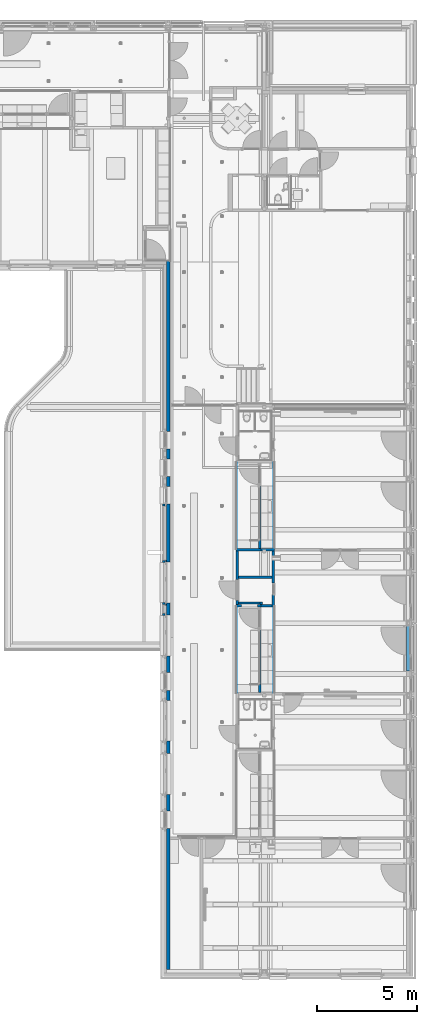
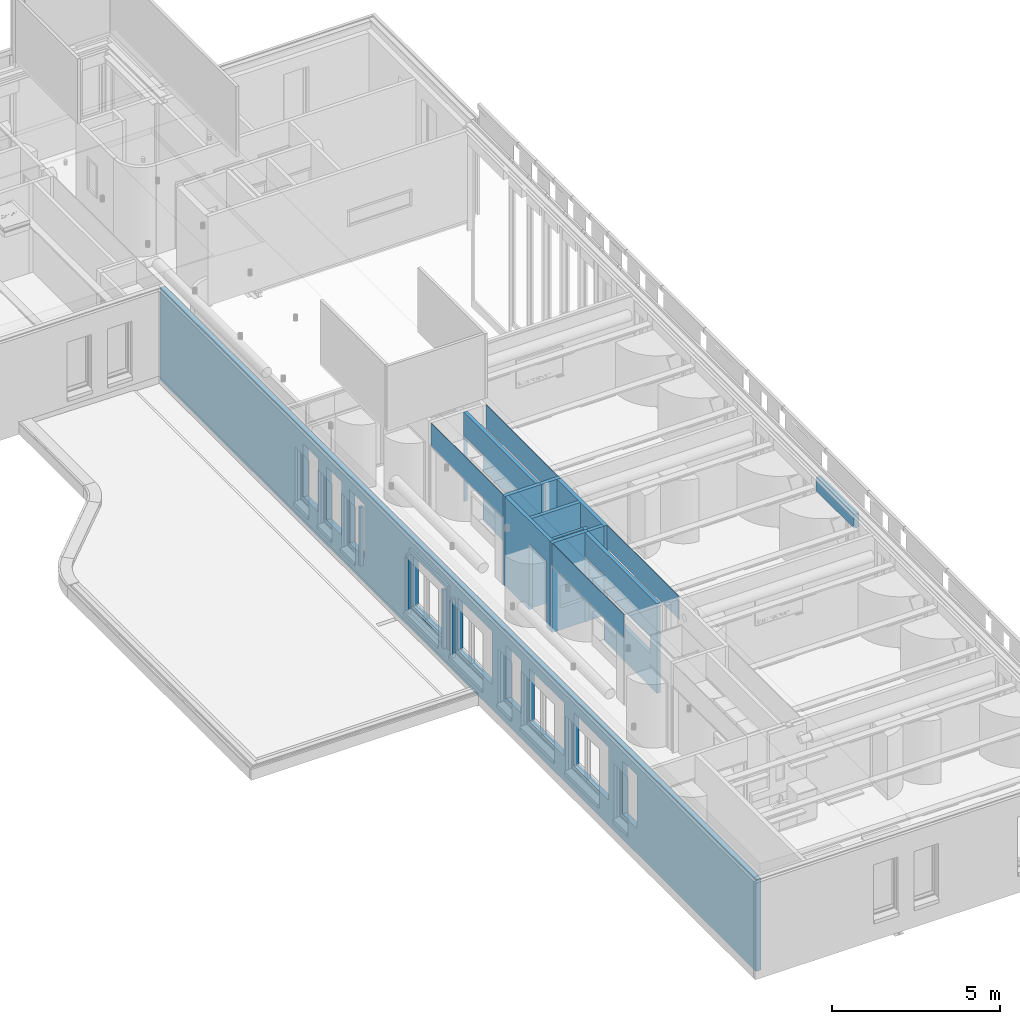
# One storey, part 37 of 128: 22 walls, 17 openings.
"""IFC2X3 building model written with IfcOpenShell, lengths in millimetres."""

from ifc_helpers import new_model, entity, si_unit, converted_unit, derived_unit, direction, frame, frame_2d, origin, origin_2d_with_axis, place, context, subcontext, project, spatial, rectangle, extrude, material, layer, layer_set, layer_usage, type_object, element, save


model = new_model("IFC2X3")

# Units and contexts
model_context = context("Model", 3, precision=0.01, world=origin(), true_north=direction((6.123031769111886e-17, 1.0)))
body_context = subcontext(model_context, "Body", "Model", "MODEL_VIEW")
ifc_project = project(units=[si_unit("LENGTHUNIT", "METRE", prefix="MILLI"), si_unit("AREAUNIT", "SQUARE_METRE"), si_unit("VOLUMEUNIT", "CUBIC_METRE"), converted_unit("PLANEANGLEUNIT", "DEGREE", entity("IfcRatioMeasure", 0.017453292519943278), si_unit("PLANEANGLEUNIT", "RADIAN"), dimensions=[0, 0, 0, 0, 0, 0, 0]), si_unit("MASSUNIT", "GRAM", prefix="KILO"), derived_unit("MASSDENSITYUNIT", [(si_unit("MASSUNIT", "GRAM", prefix="KILO"), 1), (si_unit("LENGTHUNIT", "METRE"), -3)]), derived_unit("IONCONCENTRATIONUNIT", [(si_unit("MASSUNIT", "GRAM", prefix="KILO"), 1), (si_unit("LENGTHUNIT", "METRE"), -3)]), derived_unit("MOMENTOFINERTIAUNIT", [(si_unit("LENGTHUNIT", "METRE"), 4)]), si_unit("TIMEUNIT", "SECOND"), si_unit("FREQUENCYUNIT", "HERTZ"), si_unit("THERMODYNAMICTEMPERATUREUNIT", "DEGREE_CELSIUS"), derived_unit("THERMALTRANSMITTANCEUNIT", [(si_unit("MASSUNIT", "GRAM", prefix="KILO"), 1), (si_unit("THERMODYNAMICTEMPERATUREUNIT", "KELVIN"), -1), (si_unit("TIMEUNIT", "SECOND"), -3)]), derived_unit("THERMALCONDUCTANCEUNIT", [(si_unit("MASSUNIT", "GRAM", prefix="KILO"), 1), (si_unit("THERMODYNAMICTEMPERATUREUNIT", "KELVIN"), -1), (si_unit("TIMEUNIT", "SECOND"), -3), (si_unit("LENGTHUNIT", "METRE"), 1)]), derived_unit("VOLUMETRICFLOWRATEUNIT", [(si_unit("LENGTHUNIT", "METRE"), 3), (si_unit("TIMEUNIT", "SECOND"), -1)]), derived_unit("MASSFLOWRATEUNIT", [(si_unit("MASSUNIT", "GRAM", prefix="KILO"), 1), (si_unit("TIMEUNIT", "SECOND"), -1)]), derived_unit("ROTATIONALFREQUENCYUNIT", [(si_unit("TIMEUNIT", "SECOND"), -1)]), si_unit("ELECTRICCURRENTUNIT", "AMPERE"), si_unit("ELECTRICVOLTAGEUNIT", "VOLT"), si_unit("POWERUNIT", "WATT"), si_unit("FORCEUNIT", "NEWTON", prefix="KILO"), si_unit("ILLUMINANCEUNIT", "LUX"), si_unit("LUMINOUSFLUXUNIT", "LUMEN"), si_unit("LUMINOUSINTENSITYUNIT", "CANDELA"), derived_unit("USERDEFINED", [(si_unit("MASSUNIT", "GRAM", prefix="KILO"), -1), (si_unit("LENGTHUNIT", "METRE"), -2), (si_unit("TIMEUNIT", "SECOND"), 3), (si_unit("LUMINOUSFLUXUNIT", "LUMEN"), 1)]), derived_unit("USERDEFINED", [(si_unit("MASSUNIT", "GRAM", prefix="KILO"), 1), (si_unit("TIMEUNIT", "SECOND"), -3), (si_unit("LENGTHUNIT", "METRE"), 3), (si_unit("ELECTRICCURRENTUNIT", "AMPERE"), -2)]), derived_unit("SOUNDPOWERUNIT", [(si_unit("MASSUNIT", "GRAM", prefix="KILO"), 1), (si_unit("TIMEUNIT", "SECOND"), -3), (si_unit("LENGTHUNIT", "METRE"), 2)]), derived_unit("SOUNDPRESSUREUNIT", [(si_unit("MASSUNIT", "GRAM", prefix="KILO"), 1), (si_unit("LENGTHUNIT", "METRE"), -1), (si_unit("TIMEUNIT", "SECOND"), -2)]), derived_unit("LINEARVELOCITYUNIT", [(si_unit("LENGTHUNIT", "METRE"), 1), (si_unit("TIMEUNIT", "SECOND"), -1)]), si_unit("PRESSUREUNIT", "PASCAL"), derived_unit("USERDEFINED", [(si_unit("MASSUNIT", "GRAM", prefix="KILO"), 1), (si_unit("LENGTHUNIT", "METRE"), -2), (si_unit("TIMEUNIT", "SECOND"), -2)]), derived_unit("LINEARFORCEUNIT", [(si_unit("MASSUNIT", "GRAM", prefix="KILO"), 1), (si_unit("TIMEUNIT", "SECOND"), -2)]), derived_unit("PLANARFORCEUNIT", [(si_unit("MASSUNIT", "GRAM", prefix="KILO"), 1), (si_unit("LENGTHUNIT", "METRE"), -1), (si_unit("TIMEUNIT", "SECOND"), -2)]), derived_unit("SPECIFICHEATCAPACITYUNIT", [(si_unit("THERMODYNAMICTEMPERATUREUNIT", "KELVIN"), -1), (si_unit("LENGTHUNIT", "METRE"), 2), (si_unit("TIMEUNIT", "SECOND"), -2)]), derived_unit("HEATINGVALUEUNIT", [(si_unit("LENGTHUNIT", "METRE"), 2), (si_unit("TIMEUNIT", "SECOND"), -2)]), derived_unit("VAPORPERMEABILITYUNIT", [(si_unit("LENGTHUNIT", "METRE"), -1), (si_unit("TIMEUNIT", "SECOND"), 1)]), derived_unit("DYNAMICVISCOSITYUNIT", [(si_unit("MASSUNIT", "GRAM", prefix="KILO"), 1), (si_unit("TIMEUNIT", "SECOND"), -1), (si_unit("LENGTHUNIT", "METRE"), -1)]), derived_unit("THERMALEXPANSIONCOEFFICIENTUNIT", [(si_unit("THERMODYNAMICTEMPERATUREUNIT", "KELVIN"), -1)]), derived_unit("MODULUSOFELASTICITYUNIT", [(si_unit("MASSUNIT", "GRAM", prefix="KILO"), 1), (si_unit("LENGTHUNIT", "METRE"), -1), (si_unit("TIMEUNIT", "SECOND"), -2)]), derived_unit("ISOTHERMALMOISTURECAPACITYUNIT", [(si_unit("LENGTHUNIT", "METRE"), 3), (si_unit("MASSUNIT", "GRAM", prefix="KILO"), -1)]), derived_unit("MOISTUREDIFFUSIVITYUNIT", [(si_unit("TIMEUNIT", "SECOND"), -1), (si_unit("LENGTHUNIT", "METRE"), 2)])], contexts=[model_context])

# Site, building, storey
site_placement = place(None, frame((0.0, 300.0, 0.0)))
site = spatial("IfcSite", under=ifc_project, at=site_placement, Name="<Kadastrale nummers>", CompositionType="ELEMENT")
building_placement = place(site_placement, origin())
building = spatial("IfcBuilding", under=site, at=building_placement, CompositionType="ELEMENT")
storey_placement = place(building_placement, frame((0.0, 0.0, 3560.0000331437)))
storey = spatial("IfcBuildingStorey", under=building, at=storey_placement, Name="01 eerste verdieping", CompositionType="ELEMENT", Elevation=3560.0000331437)

# Walls
ifc_material_1 = material(Name="ISR_Metselwerk")
ifc_layer_1 = layer(ifc_material_1, 100.0)
ifc_layer_set_1 = layer_set([ifc_layer_1], Name="Basic Wall:21_DAT_metselwerk_100")
ifc_layer_usage_1 = layer_usage(ifc_layer_set_1, "AXIS2", "NEGATIVE", 50.0)
wall_type_1 = type_object("IfcWallType", Name="Basic Wall:21_DAT_metselwerk_100", PredefinedType="STANDARD", material=ifc_layer_set_1)
wall_1_placement = place(storey_placement, frame((36325.0, 26015.0, 715.0000018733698)))
element("IfcWallStandardCase", 1, at=wall_1_placement, inside=storey, type_object=wall_type_1, material=ifc_layer_usage_1, Name="Basic Wall:21_DAT_metselwerk_100", ObjectType="Basic Wall:21_DAT_metselwerk_100", context=body_context, shape_type="SweptSolid", body=[
    extrude(rectangle(XDim=110.0000000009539, YDim=100.00000000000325, at=frame_2d((55.00000000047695, -1.4139800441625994e-12), x_axis=(-1.0, 0.0))), origin(), (0.0, 0.0, 1.0), 2125.0000000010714),
])
ifc_layer_usage_2 = layer_usage(ifc_layer_set_1, "AXIS2", "POSITIVE", -50.0)
wall_2_placement = place(storey_placement, frame((36325.0, 20530.0, 715.0000018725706)))
element("IfcWallStandardCase", 2, at=wall_2_placement, inside=storey, type_object=wall_type_1, material=ifc_layer_usage_2, Name="Basic Wall:21_DAT_metselwerk_100", ObjectType="Basic Wall:21_DAT_metselwerk_100", context=body_context, shape_type="SweptSolid", body=[
    extrude(rectangle(XDim=110.00000000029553, YDim=100.00000000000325, at=frame_2d((55.000000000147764, 1.3677947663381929e-12), x_axis=(-1.0, 0.0))), origin(), (0.0, 0.0, 1.0), 2125.0000000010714),
])
wall_3_placement = place(storey_placement, frame((36325.0, 21080.0, 715.0000018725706)))
element("IfcWallStandardCase", 3, at=wall_3_placement, inside=storey, type_object=wall_type_1, material=ifc_layer_usage_1, Name="Basic Wall:21_DAT_metselwerk_100", ObjectType="Basic Wall:21_DAT_metselwerk_100", context=body_context, shape_type="SweptSolid", body=[
    extrude(rectangle(XDim=110.0000000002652, YDim=100.00000000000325, at=frame_2d((55.0000000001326, -1.7053025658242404e-13), x_axis=(-1.0, 0.0))), origin(), (0.0, 0.0, 1.0), 2125.0000000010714),
])
wall_4_placement = place(storey_placement, frame((36325.0, 23180.0, 715.0000018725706)))
element("IfcWallStandardCase", 4, at=wall_4_placement, inside=storey, type_object=wall_type_1, material=ifc_layer_usage_2, Name="Basic Wall:21_DAT_metselwerk_100", ObjectType="Basic Wall:21_DAT_metselwerk_100", context=body_context, shape_type="SweptSolid", body=[
    extrude(rectangle(XDim=110.00000000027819, YDim=100.00000000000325, at=frame_2d((55.000000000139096, 1.3677947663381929e-12), x_axis=(-1.0, 0.0))), origin(), (0.0, 0.0, 1.0), 2125.0000000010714),
])

# Wall, opening
ifc_material_2 = material(Name="ISR_Gips")
ifc_layer_2 = layer(ifc_material_2, 1.0)
ifc_material_3 = material(Name="ISR_Binnenwand")
ifc_layer_3 = layer(ifc_material_3, 123.0)
ifc_layer_4 = layer(ifc_material_2, 1.0)
ifc_layer_set_2 = layer_set([ifc_layer_2, ifc_layer_3, ifc_layer_4], Name="Basic Wall:22_DAT_binnenwand_125")
ifc_layer_usage_3 = layer_usage(ifc_layer_set_2, "AXIS2", "NEGATIVE", 62.50000000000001)
wall_type_2 = type_object("IfcWallType", Name="Basic Wall:22_DAT_binnenwand_125", PredefinedType="STANDARD", material=ifc_layer_set_2)
wall_5_placement = place(storey_placement, frame((41837.49999999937, 23709.998623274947, 90.00000187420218), z_axis=(0.0, 0.0, 1.0), x_axis=(0.0, -1.0, 0.0)))
wall_5 = element("IfcWallStandardCase", 5, at=wall_5_placement, inside=storey, type_object=wall_type_2, material=ifc_layer_usage_3, Name="Basic Wall:22_DAT_binnenwand_125", ObjectType="Basic Wall:22_DAT_binnenwand_125", context=body_context, shape_type="SweptSolid", body=[
    extrude(rectangle(XDim=2800.001376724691, YDim=125.00000000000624, at=frame_2d((1400.0006883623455, -6.750155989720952e-14), x_axis=(-1.0, 0.0))), origin(), (0.0, 0.0, 1.0), 3240.0000290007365),
])
opening_1_placement = place(wall_5_placement, origin())
element("IfcOpeningElement", 6, at=opening_1_placement, cuts=wall_5, Name="Basic Wall:22_DAT_binnenwand_125", ObjectType="Opening", context=body_context, shape_type="SweptSolid", body=[
    extrude(rectangle(XDim=1190.0000000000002, YDim=600.0000000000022, at=frame_2d((0.0, 0.0), x_axis=(0.0, 1.0))), frame((1900.0013767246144, -214.89999999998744, 1795.0), z_axis=(0.0, 1.0, 0.0), x_axis=(-1.0, 0.0, 0.0)), (0.0, 0.0, 1.0), 429.79999999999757),
])

wall_6_placement = place(storey_placement, frame((40052.49999999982, 23709.998623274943, 90.00000187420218), z_axis=(0.0, 0.0, 1.0), x_axis=(0.0, -1.0, 0.0)))
wall_6 = element("IfcWallStandardCase", 7, at=wall_6_placement, inside=storey, type_object=wall_type_2, material=ifc_layer_usage_3, Name="Basic Wall:22_DAT_binnenwand_125", ObjectType="Basic Wall:22_DAT_binnenwand_125", context=body_context, shape_type="SweptSolid", body=[
    extrude(rectangle(XDim=2675.001376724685, YDim=125.00000000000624, at=frame_2d((1337.5006883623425, -3.169020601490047e-12), x_axis=(-1.0, 0.0))), origin(), (0.0, 0.0, 1.0), 3240.0000290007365),
])
opening_2_placement = place(wall_6_placement, origin())
element("IfcOpeningElement", 8, at=opening_2_placement, cuts=wall_6, Name="Basic Wall:22_DAT_binnenwand_125", ObjectType="Opening", context=body_context, shape_type="SweptSolid", body=[
    extrude(rectangle(XDim=2390.0000000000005, YDim=1034.0000000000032, at=frame_2d((2.1600499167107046e-12, 0.0), x_axis=(0.0, 1.0))), frame((1953.0013767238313, -214.89999999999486, 1195.0), z_axis=(0.0, 1.0, 0.0), x_axis=(-1.0, 0.0, 0.0)), (0.0, 0.0, 1.0), 429.79999999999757),
])

# Walls
wall_7_placement = place(storey_placement, frame((41238.48105335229, 21172.497246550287, 90.0000018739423), z_axis=(0.0, 0.0, 1.0), x_axis=(0.0, -1.0, 0.0)))
element("IfcWallStandardCase", 9, at=wall_7_placement, inside=storey, type_object=wall_type_2, material=ifc_layer_usage_3, Name="Basic Wall:22_DAT_binnenwand_125", ObjectType="Basic Wall:22_DAT_binnenwand_125", context=body_context, shape_type="SweptSolid", body=[
    extrude(rectangle(XDim=137.5000000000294, YDim=125.00000000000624, at=frame_2d((68.7500000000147, 0.0), x_axis=(-1.0, 0.0))), origin(), (0.0, 0.0, 1.0), 3240.000029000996),
])
wall_8_placement = place(storey_placement, frame((41775.0, 22387.49724655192, 90.00000187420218), z_axis=(0.0, 0.0, 1.0), x_axis=(-1.0, 0.0, 0.0)))
element("IfcWallStandardCase", 10, at=wall_8_placement, inside=storey, type_object=wall_type_2, material=ifc_layer_usage_3, Name="Basic Wall:22_DAT_binnenwand_125", ObjectType="Basic Wall:22_DAT_binnenwand_125", context=body_context, shape_type="SweptSolid", body=[
    extrude(rectangle(XDim=1659.9999999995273, YDim=124.99999999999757, at=frame_2d((829.9999999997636, -5.826450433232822e-13), x_axis=(-1.0, 0.0))), origin(), (0.0, 0.0, 1.0), 3240.0000290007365),
])
ifc_layer_5 = layer(ifc_material_3, 100.0)
ifc_layer_set_3 = layer_set([ifc_layer_5], Name="Basic Wall:22_DAT_binnenwand_100")
ifc_layer_usage_4 = layer_usage(ifc_layer_set_3, "AXIS2", "NEGATIVE", 50.0)
wall_type_3 = type_object("IfcWallType", Name="Basic Wall:22_DAT_binnenwand_100", PredefinedType="STANDARD", material=ifc_layer_set_3)
wall_9_placement = place(storey_placement, frame((40115.0, 21122.497246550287, 90.0000018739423)))
element("IfcWallStandardCase", 11, at=wall_9_placement, inside=storey, type_object=wall_type_3, material=ifc_layer_usage_4, Name="Basic Wall:22_DAT_binnenwand_100", ObjectType="Basic Wall:22_DAT_binnenwand_100", context=body_context, shape_type="SweptSolid", body=[
    extrude(rectangle(XDim=1060.9810533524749, YDim=100.00000000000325, at=frame_2d((530.4905266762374, 1.3606893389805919e-12), x_axis=(-1.0, 0.0))), origin(), (0.0, 0.0, 1.0), 3240.000029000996),
])
ifc_layer_6 = layer(ifc_material_3, 113.0)
ifc_material_4 = material(Name="ISR_HPL Kleur hout")
ifc_layer_7 = layer(ifc_material_4, 12.0)
ifc_layer_set_4 = layer_set([ifc_layer_6, ifc_layer_7], Name="Basic Wall:22_DAT_binnenwand_125 HPL")
ifc_layer_usage_5 = layer_usage(ifc_layer_set_4, "AXIS2", "POSITIVE", -62.49999999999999)
wall_type_4 = type_object("IfcWallType", Name="Basic Wall:22_DAT_binnenwand_125 HPL", PredefinedType="STANDARD", material=ifc_layer_set_4)
wall_10_placement = place(storey_placement, frame((39990.0, 23772.498623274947, 90.00000187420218)))
element("IfcWallStandardCase", 12, at=wall_10_placement, inside=storey, type_object=wall_type_4, material=ifc_layer_usage_5, Name="Basic Wall:22_DAT_binnenwand_125 HPL", ObjectType="Basic Wall:22_DAT_binnenwand_125 HPL", context=body_context, shape_type="SweptSolid", body=[
    extrude(rectangle(XDim=1249.99999999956, YDim=124.99999999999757, at=frame_2d((624.99999999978, 6.856737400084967e-13), x_axis=(-1.0, 0.0))), origin(), (0.0, 0.0, 1.0), 3240.0000290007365),
])
wall_11_placement = place(storey_placement, frame((41775.0, 20972.497246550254, 90.00000187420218), z_axis=(0.0, 0.0, 1.0), x_axis=(-1.0, 0.0, 0.0)))
element("IfcWallStandardCase", 13, at=wall_11_placement, inside=storey, type_object=wall_type_4, material=ifc_layer_usage_5, Name="Basic Wall:22_DAT_binnenwand_125 HPL", ObjectType="Basic Wall:22_DAT_binnenwand_125 HPL", context=body_context, shape_type="SweptSolid", body=[
    extrude(rectangle(XDim=534.9999999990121, YDim=124.99999999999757, at=frame_2d((267.49999999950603, 0.0), x_axis=(-1.0, 0.0))), origin(), (0.0, 0.0, 1.0), 3240.0000290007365),
])
wall_12_placement = place(storey_placement, frame((41240.0, 23772.49862327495, 90.00000187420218)))
element("IfcWallStandardCase", 14, at=wall_12_placement, inside=storey, type_object=wall_type_4, material=ifc_layer_usage_5, Name="Basic Wall:22_DAT_binnenwand_125 HPL", ObjectType="Basic Wall:22_DAT_binnenwand_125 HPL", context=body_context, shape_type="SweptSolid", body=[
    extrude(rectangle(XDim=659.9999999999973, YDim=124.99999999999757, at=frame_2d((329.99999999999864, -7.815970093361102e-13), x_axis=(-1.0, 0.0))), origin(), (0.0, 0.0, 1.0), 3240.0000290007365),
])

# Wall, opening
wall_13_placement = place(storey_placement, frame((41240.0, 20972.497246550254, 90.00000187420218), z_axis=(0.0, 0.0, 1.0), x_axis=(-1.0, 0.0, 0.0)))
wall_13 = element("IfcWallStandardCase", 15, at=wall_13_placement, inside=storey, type_object=wall_type_4, material=ifc_layer_usage_5, Name="Basic Wall:22_DAT_binnenwand_125 HPL", ObjectType="Basic Wall:22_DAT_binnenwand_125 HPL", context=body_context, shape_type="SweptSolid", body=[
    extrude(rectangle(XDim=1250.0000000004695, YDim=125.0000000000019, at=frame_2d((625.0000000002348, -2.1671553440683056e-12), x_axis=(-1.0, 0.0))), origin(), (0.0, 0.0, 1.0), 3240.0000290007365),
])
opening_3_placement = place(wall_13_placement, origin())
element("IfcOpeningElement", 16, at=opening_3_placement, cuts=wall_13, Name="Basic Wall:22_DAT_binnenwand_125 HPL", ObjectType="Opening", context=body_context, shape_type="SweptSolid", body=[
    extrude(rectangle(XDim=790.0000000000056, YDim=790.0000000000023, at=frame_2d((4.348521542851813e-12, 0.0), x_axis=(0.0, 1.0))), frame((585.0066017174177, -177.50000000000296, 1195.0), z_axis=(0.0, 1.0, 0.0), x_axis=(1.0, 0.0, 0.0)), (0.0, 0.0, 1.0), 240.00000000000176),
])

# Wall, openings
ifc_layer_8 = layer(ifc_material_4, 12.0)
ifc_layer_9 = layer(ifc_material_3, 101.0)
ifc_layer_10 = layer(ifc_material_4, 12.0)
ifc_layer_set_5 = layer_set([ifc_layer_8, ifc_layer_9, ifc_layer_10], Name="Basic Wall:22_DAT_binnenwand_125 HPL dubbel")
ifc_layer_usage_6 = layer_usage(ifc_layer_set_5, "AXIS2", "NEGATIVE", 62.50000000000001)
wall_type_5 = type_object("IfcWallType", Name="Basic Wall:22_DAT_binnenwand_125 HPL dubbel", PredefinedType="STANDARD", material=ifc_layer_set_5)
wall_14_placement = place(storey_placement, frame((41177.50000000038, 28109.998623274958, 90.00000187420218), z_axis=(0.0, 0.0, 1.0), x_axis=(0.0, -1.0, 0.0)))
wall_14 = element("IfcWallStandardCase", 17, at=wall_14_placement, inside=storey, type_object=wall_type_5, material=ifc_layer_usage_6, Name="Basic Wall:22_DAT_binnenwand_125 HPL dubbel", ObjectType="Basic Wall:22_DAT_binnenwand_125 HPL dubbel", context=body_context, shape_type="SweptSolid", body=[
    extrude(rectangle(XDim=4275.000000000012, YDim=125.00000000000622, at=frame_2d((2137.500000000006, -1.0302869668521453e-12), x_axis=(-1.0, 0.0))), origin(), (0.0, 0.0, 1.0), 3239.9999999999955),
])
opening_4_placement = place(wall_14_placement, origin())
element("IfcOpeningElement", 18, at=opening_4_placement, cuts=wall_14, Name="Basic Wall:22_DAT_binnenwand_125 HPL dubbel", ObjectType="Opening", context=body_context, shape_type="SweptSolid", body=[
    extrude(rectangle(XDim=600.0, YDim=2710.0000000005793, at=frame_2d((0.0, 0.0), x_axis=(0.0, 1.0))), frame((2504.0, -214.89999999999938, 1500.0), z_axis=(0.0, 1.0, 0.0), x_axis=(-1.0, 0.0, 0.0)), (0.0, 0.0, 1.0), 429.79999999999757),
])
opening_5_placement = place(wall_14_placement, origin())
element("IfcOpeningElement", 19, at=opening_5_placement, cuts=wall_14, Name="Basic Wall:22_DAT_binnenwand_125 HPL dubbel", ObjectType="Opening", context=body_context, shape_type="SweptSolid", body=[
    extrude(rectangle(XDim=2390.0000000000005, YDim=1133.9999999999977, at=frame_2d((2.1600499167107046e-12, 0.0), x_axis=(0.0, 1.0))), frame((582.0, -214.90000000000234, 1195.0), z_axis=(0.0, 1.0, 0.0), x_axis=(-1.0, 0.0, 0.0)), (0.0, 0.0, 1.0), 429.79999999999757),
])

wall_15_placement = place(storey_placement, frame((41177.5000000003, 20909.997246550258, 90.00000187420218), z_axis=(0.0, 0.0, 1.0), x_axis=(0.0, -1.0, 0.0)))
wall_15 = element("IfcWallStandardCase", 20, at=wall_15_placement, inside=storey, type_object=wall_type_5, material=ifc_layer_usage_6, Name="Basic Wall:22_DAT_binnenwand_125 HPL dubbel", ObjectType="Basic Wall:22_DAT_binnenwand_125 HPL dubbel", context=body_context, shape_type="SweptSolid", body=[
    extrude(rectangle(XDim=4274.9986232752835, YDim=125.00000000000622, at=frame_2d((2137.4993116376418, -1.0302869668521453e-12), x_axis=(-1.0, 0.0))), origin(), (0.0, 0.0, 1.0), 3239.9999999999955),
])
opening_6_placement = place(wall_15_placement, origin())
element("IfcOpeningElement", 21, at=opening_6_placement, cuts=wall_15, Name="Basic Wall:22_DAT_binnenwand_125 HPL dubbel", ObjectType="Opening", context=body_context, shape_type="SweptSolid", body=[
    extrude(rectangle(XDim=600.0, YDim=2710.0000000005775, at=frame_2d((1.0231815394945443e-12, 0.0), x_axis=(0.0, 1.0))), frame((2504.0, -214.8999999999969, 1500.0), z_axis=(0.0, 1.0, 0.0), x_axis=(-1.0, 0.0, 0.0)), (0.0, 0.0, 1.0), 429.79999999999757),
])
opening_7_placement = place(wall_15_placement, origin())
element("IfcOpeningElement", 22, at=opening_7_placement, cuts=wall_15, Name="Basic Wall:22_DAT_binnenwand_125 HPL dubbel", ObjectType="Opening", context=body_context, shape_type="SweptSolid", body=[
    extrude(rectangle(XDim=2390.0000000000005, YDim=1133.9999999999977, at=frame_2d((2.1600499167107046e-12, 0.0), x_axis=(0.0, 1.0))), frame((582.0, -214.89999999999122, 1195.0), z_axis=(0.0, 1.0, 0.0), x_axis=(-1.0, 0.0, 0.0)), (0.0, 0.0, 1.0), 429.79999999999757),
])

# Walls
ifc_layer_11 = layer(ifc_material_2, 1.0)
ifc_layer_12 = layer(ifc_material_3, 23.0)
ifc_layer_13 = layer(ifc_material_2, 1.0)
ifc_layer_set_6 = layer_set([ifc_layer_11, ifc_layer_12, ifc_layer_13], Name="Basic Wall:22_DAT_binnenwand_25")
ifc_layer_usage_7 = layer_usage(ifc_layer_set_6, "AXIS2", "NEGATIVE", 12.499999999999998)
wall_type_6 = type_object("IfcWallType", Name="Basic Wall:22_DAT_binnenwand_25", PredefinedType="STANDARD", material=ifc_layer_set_6)
for number, where, z_axis, x_axis, name in (
    (23, (40002.4999999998, 28109.998623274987, 2490.000024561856), (0.0, 0.0, 1.0), (0.0, -1.0, 0.0), "Basic Wall:22_DAT_binnenwand_25"),
    (24, (40002.49999999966, 20909.997246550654, 2490.000024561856), (0.0, 0.0, 1.0), (0.0, -1.0, 0.0), "Basic Wall:22_DAT_binnenwand_25"),
):
    element("IfcWallStandardCase", number, at=place(storey_placement, frame(where, z_axis=z_axis, x_axis=x_axis)), inside=storey, type_object=wall_type_6, material=ifc_layer_usage_7, Name=name, ObjectType="Basic Wall:22_DAT_binnenwand_25", context=body_context, shape_type="SweptSolid", body=[
        extrude(rectangle(XDim=4274.9999999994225, YDim=24.999999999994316, at=frame_2d((2137.4999999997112, 0.0), x_axis=(-1.0, 0.0))), origin(), (0.0, 0.0, 1.0), 840.0000063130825),
    ])
ifc_layer_usage_8 = layer_usage(ifc_layer_set_6, "AXIS2", "POSITIVE", -12.499999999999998)
for number, where, z_axis, x_axis, name in (
    (25, (41887.49999999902, 28109.998623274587, 2490.000024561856), (0.0, 0.0, 1.0), (0.0, -1.0, 0.0), "Basic Wall:22_DAT_binnenwand_25"),
    (26, (41887.49999999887, 20909.997246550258, 2490.000024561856), (0.0, 0.0, 1.0), (0.0, -1.0, 0.0), "Basic Wall:22_DAT_binnenwand_25"),
):
    element("IfcWallStandardCase", number, at=place(storey_placement, frame(where, z_axis=z_axis, x_axis=x_axis)), inside=storey, type_object=wall_type_6, material=ifc_layer_usage_8, Name=name, ObjectType="Basic Wall:22_DAT_binnenwand_25", context=body_context, shape_type="SweptSolid", body=[
        extrude(rectangle(XDim=4274.999999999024, YDim=24.999999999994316, at=frame_2d((2137.499999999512, 0.0), x_axis=(-1.0, 0.0))), origin(), (0.0, 0.0, 1.0), 840.0000063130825),
    ])

# Wall, openings
ifc_layer_14 = layer(ifc_material_2, 1.0)
ifc_material_5 = material(Name="ISR_Kalkzandsteen")
ifc_layer_15 = layer(ifc_material_5, 173.0)
ifc_layer_16 = layer(ifc_material_2, 1.0)
ifc_layer_set_7 = layer_set([ifc_layer_14, ifc_layer_15, ifc_layer_16], Name="Basic Wall:28_DAT_kalkzandsteen_175mm")
ifc_layer_usage_9 = layer_usage(ifc_layer_set_7, "AXIS2", "NEGATIVE", 87.49999999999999)
wall_type_7 = type_object("IfcWallType", Name="Basic Wall:28_DAT_kalkzandsteen_175mm", PredefinedType="STANDARD", material=ifc_layer_set_7)
wall_16_placement = place(storey_placement, frame((36612.50000000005, 38200.0, 0.0), z_axis=(0.0, 0.0, 1.0), x_axis=(0.0, -1.0, 0.0)))
wall_16 = element("IfcWallStandardCase", 27, at=wall_16_placement, inside=storey, type_object=wall_type_7, material=ifc_layer_usage_9, Name="Basic Wall:28_DAT_kalkzandsteen_175mm", ObjectType="Basic Wall:28_DAT_kalkzandsteen_175mm", context=body_context, shape_type="SweptSolid", body=[
    extrude(rectangle(XDim=35400.0, YDim=175.00000000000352, at=frame_2d((17700.0, 9.166001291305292e-13), x_axis=(-1.0, 0.0))), origin(), (0.0, 0.0, 1.0), 3330.000001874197),
])
opening_8_placement = place(wall_16_placement, origin())
element("IfcOpeningElement", 28, at=opening_8_placement, cuts=wall_16, Name="Basic Wall:28_DAT_kalkzandsteen_175mm", ObjectType="Opening", context=body_context, shape_type="SweptSolid", body=[
    extrude(rectangle(XDim=1929.9999999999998, YDim=879.9999999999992, at=frame_2d((5.684341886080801e-13, 0.0), x_axis=(1.0, 0.0))), frame((21010.0, -239.89999999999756, 1865.0), z_axis=(0.0, 1.0, 0.0), x_axis=(0.0, 0.0, 1.0)), (0.0, 0.0, 1.0), 479.7999999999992),
])
opening_9_placement = place(wall_16_placement, origin())
element("IfcOpeningElement", 29, at=opening_9_placement, cuts=wall_16, Name="Basic Wall:28_DAT_kalkzandsteen_175mm", ObjectType="Opening", context=body_context, shape_type="SweptSolid", body=[
    extrude(rectangle(XDim=1929.9999999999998, YDim=879.9999999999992, at=frame_2d((5.684341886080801e-13, 0.0), x_axis=(1.0, 0.0))), frame((27910.0, -239.89999999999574, 1865.0), z_axis=(0.0, 1.0, 0.0), x_axis=(0.0, 0.0, 1.0)), (0.0, 0.0, 1.0), 479.7999999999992),
])
opening_10_placement = place(wall_16_placement, origin())
element("IfcOpeningElement", 30, at=opening_10_placement, cuts=wall_16, Name="Basic Wall:28_DAT_kalkzandsteen_175mm", ObjectType="Opening", context=body_context, shape_type="SweptSolid", body=[
    extrude(rectangle(XDim=1929.9999999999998, YDim=879.9999999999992, at=frame_2d((5.684341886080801e-13, 0.0), x_axis=(1.0, 0.0))), frame((8955.0, -239.89999999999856, 1865.0), z_axis=(0.0, 1.0, 0.0), x_axis=(0.0, 0.0, 1.0)), (0.0, 0.0, 1.0), 479.7999999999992),
])
opening_11_placement = place(wall_16_placement, origin())
element("IfcOpeningElement", 31, at=opening_11_placement, cuts=wall_16, Name="Basic Wall:28_DAT_kalkzandsteen_175mm", ObjectType="Opening", context=body_context, shape_type="SweptSolid", body=[
    extrude(rectangle(XDim=1929.9999999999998, YDim=879.9999999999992, at=frame_2d((5.684341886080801e-13, 0.0), x_axis=(1.0, 0.0))), frame((10335.0, -239.89999999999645, 1865.0), z_axis=(0.0, 1.0, 0.0), x_axis=(0.0, 0.0, 1.0)), (0.0, 0.0, 1.0), 479.7999999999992),
])
opening_12_placement = place(wall_16_placement, origin())
element("IfcOpeningElement", 32, at=opening_12_placement, cuts=wall_16, Name="Basic Wall:28_DAT_kalkzandsteen_175mm", ObjectType="Opening", context=body_context, shape_type="SweptSolid", body=[
    extrude(rectangle(XDim=1930.000000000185, YDim=2039.9999999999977, at=frame_2d((0.0, 1.0800249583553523e-12), x_axis=(1.0, 0.0))), frame((22970.0, -239.89999999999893, 1865.0), z_axis=(0.0, 1.0, 0.0), x_axis=(0.0, 0.0, 1.0)), (0.0, 0.0, 1.0), 479.7999999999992),
])
opening_13_placement = place(wall_16_placement, origin())
element("IfcOpeningElement", 33, at=opening_13_placement, cuts=wall_16, Name="Basic Wall:28_DAT_kalkzandsteen_175mm", ObjectType="Opening", context=body_context, shape_type="SweptSolid", body=[
    extrude(rectangle(XDim=1930.000000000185, YDim=2039.9999999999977, at=frame_2d((0.0, -1.0800249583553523e-12), x_axis=(1.0, 0.0))), frame((25620.0, -239.89999999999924, 1865.0), z_axis=(0.0, 1.0, 0.0), x_axis=(0.0, 0.0, 1.0)), (0.0, 0.0, 1.0), 479.7999999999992),
])
opening_14_placement = place(wall_16_placement, origin())
element("IfcOpeningElement", 34, at=opening_14_placement, cuts=wall_16, Name="Basic Wall:28_DAT_kalkzandsteen_175mm", ObjectType="Opening", context=body_context, shape_type="SweptSolid", body=[
    extrude(rectangle(XDim=1930.000000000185, YDim=2039.9999999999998, at=origin_2d_with_axis()), frame((18720.0, -239.89999999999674, 1865.0), z_axis=(0.0, 1.0, 0.0), x_axis=(0.0, 0.0, 1.0)), (0.0, 0.0, 1.0), 479.7999999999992),
])
opening_15_placement = place(wall_16_placement, origin())
element("IfcOpeningElement", 35, at=opening_15_placement, cuts=wall_16, Name="Basic Wall:28_DAT_kalkzandsteen_175mm", ObjectType="Opening", context=body_context, shape_type="SweptSolid", body=[
    extrude(rectangle(XDim=1930.000000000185, YDim=2039.9999999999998, at=frame_2d((0.0, -2.1600499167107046e-12), x_axis=(1.0, 0.0))), frame((16070.0, -239.90000000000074, 1865.0), z_axis=(0.0, 1.0, 0.0), x_axis=(0.0, 0.0, 1.0)), (0.0, 0.0, 1.0), 479.7999999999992),
])
opening_16_placement = place(wall_16_placement, origin())
element("IfcOpeningElement", 36, at=opening_16_placement, cuts=wall_16, Name="Basic Wall:28_DAT_kalkzandsteen_175mm", ObjectType="Opening", context=body_context, shape_type="SweptSolid", body=[
    extrude(rectangle(XDim=1929.9999999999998, YDim=879.9999999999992, at=frame_2d((5.684341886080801e-13, -4.320099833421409e-12), x_axis=(1.0, 0.0))), frame((11715.0, -239.89999999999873, 1865.0), z_axis=(0.0, 1.0, 0.0), x_axis=(0.0, 0.0, 1.0)), (0.0, 0.0, 1.0), 479.7999999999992),
])

# Wall
ifc_layer_17 = layer(ifc_material_2, 12.5)
ifc_layer_18 = layer(ifc_material_2, 12.5)
ifc_material_6 = material(Name="ISR_Dak_isolatie(198)")
ifc_layer_19 = layer(ifc_material_6, 140.0)
ifc_material_7 = material(Name="ISR_Multiplex")
ifc_layer_20 = layer(ifc_material_7, 10.0)
ifc_layer_set_8 = layer_set([ifc_layer_17, ifc_layer_18, ifc_layer_19, ifc_layer_20], Name="Basic Wall:21_DAT_Hekwerk 175")
ifc_layer_usage_10 = layer_usage(ifc_layer_set_8, "AXIS2", "POSITIVE", -87.5)
wall_type_8 = type_object("IfcWallType", Name="Basic Wall:21_DAT_Hekwerk 175", PredefinedType="STANDARD", material=ifc_layer_set_8)
wall_17_placement = place(storey_placement, frame((48587.50000000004, 19960.0, 2830.0), z_axis=(0.0, 0.0, 1.0), x_axis=(0.0, -1.0, 0.0)))
element("IfcWallStandardCase", 37, at=wall_17_placement, inside=storey, type_object=wall_type_8, material=ifc_layer_usage_10, Name="Basic Wall:21_DAT_Hekwerk 175", ObjectType="Basic Wall:21_DAT_Hekwerk 175", context=body_context, shape_type="SweptSolid", body=[
    extrude(rectangle(XDim=2249.999999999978, YDim=174.99999999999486, at=frame_2d((1124.999999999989, 0.0), x_axis=(-1.0, 0.0))), origin(), (0.0, 0.0, 1.0), 500.00003087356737),
])

# Wall, opening
ifc_material_8 = material(Name="ISR_Isolatie")
ifc_layer_21 = layer(ifc_material_8, 70.0)
ifc_layer_set_9 = layer_set([ifc_layer_21], Name="Basic Wall:21_DAT_isolatie hard_74")
ifc_layer_usage_11 = layer_usage(ifc_layer_set_9, "AXIS2", "POSITIVE", -35.0)
wall_type_9 = type_object("IfcWallType", Name="Basic Wall:21_DAT_isolatie hard_74", PredefinedType="STANDARD", material=ifc_layer_set_9)
wall_18_placement = place(storey_placement, frame((36490.0, 23270.0, 652.50000187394), z_axis=(0.0, 0.0, 1.0), x_axis=(0.0, -1.0, 0.0)))
wall_18 = element("IfcWallStandardCase", 38, at=wall_18_placement, inside=storey, type_object=wall_type_9, material=ifc_layer_usage_11, Name="Basic Wall:21_DAT_isolatie hard_74", ObjectType="Basic Wall:21_DAT_isolatie hard_74", context=body_context, shape_type="SweptSolid", body=[
    extrude(rectangle(XDim=2289.999999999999, YDim=70.00000000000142, at=frame_2d((1144.9999999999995, -8.526512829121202e-13), x_axis=(-1.0, 0.0))), origin(), (0.0, 0.0, 1.0), 2312.5000000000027),
])
opening_17_placement = place(wall_18_placement, origin())
element("IfcOpeningElement", 39, at=opening_17_placement, cuts=wall_18, Name="Basic Wall:21_DAT_isolatie hard_74", ObjectType="Opening", context=body_context, shape_type="SweptSolid", body=[
    extrude(rectangle(XDim=1930.000000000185, YDim=2039.9999999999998, at=frame_2d((0.0, 2.1600499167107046e-12), x_axis=(1.0, 0.0))), frame((1140.0, -187.40000000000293, 1212.499999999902), z_axis=(0.0, 1.0, 0.0), x_axis=(0.0, 0.0, 1.0)), (0.0, 0.0, 1.0), 374.80000000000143),
])

save(model, "model.ifc")
